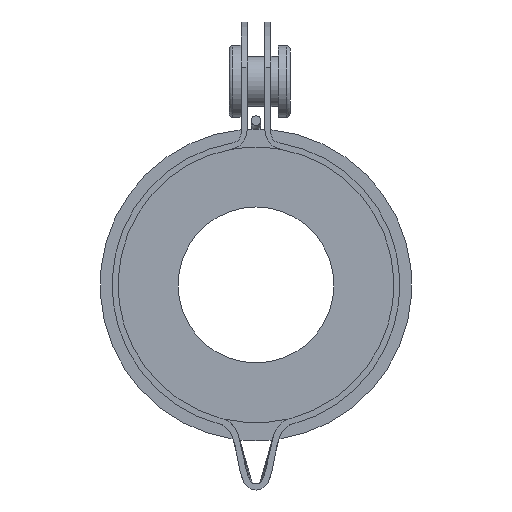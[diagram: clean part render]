
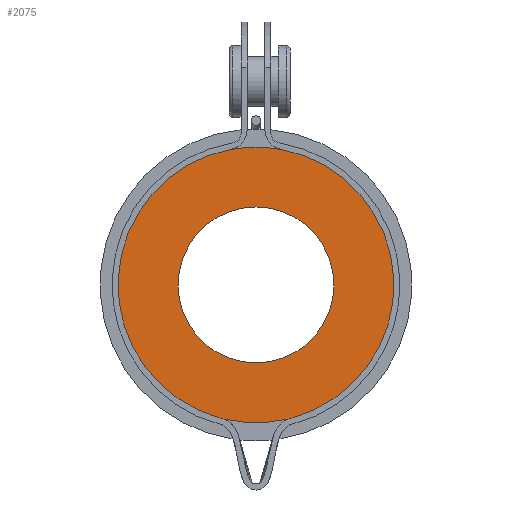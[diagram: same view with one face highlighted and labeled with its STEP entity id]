
A CAD part, front view. The second image highlights one B-rep face of the part: STEP entity #2075.
In plain terms, the highlighted planar face has unit normal (0, -1, 0).
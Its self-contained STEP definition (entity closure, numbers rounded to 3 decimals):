
#46=LINE($,#3395,#130);
#47=LINE($,#3402,#131);
#130=VECTOR($,#2716,0.13);
#131=VECTOR($,#2723,0.13);
#215=B_SPLINE_CURVE_WITH_KNOTS($,3,(#3383,#3384,#3385,#3386),
 .UNSPECIFIED.,.F.,.F.,(4,4),(0.,0.023),.UNSPECIFIED.);
#216=B_SPLINE_CURVE_WITH_KNOTS($,3,(#3390,#3391,#3392,#3393),
 .UNSPECIFIED.,.F.,.F.,(4,4),(0.125,0.148),
 .UNSPECIFIED.);
#314=FACE_BOUND($,#636,.T.);
#454=FACE_OUTER_BOUND($,#635,.T.);
#635=EDGE_LOOP($,(#1456,#1457,#1458,#1459,#1460,#1461,#1462,#1463));
#636=EDGE_LOOP($,(#1464));
#812=CIRCLE($,#2295,6.5);
#815=CIRCLE($,#2300,11.5);
#816=CIRCLE($,#2301,11.5);
#817=CIRCLE($,#2302,11.5);
#818=CIRCLE($,#2303,11.5);
#953=VERTEX_POINT($,#3363);
#958=VERTEX_POINT($,#3381);
#959=VERTEX_POINT($,#3382);
#960=VERTEX_POINT($,#3387);
#961=VERTEX_POINT($,#3389);
#962=VERTEX_POINT($,#3394);
#963=VERTEX_POINT($,#3396);
#964=VERTEX_POINT($,#3398);
#965=VERTEX_POINT($,#3400);
#1143=EDGE_CURVE($,#953,#953,#812,.T.);
#1148=EDGE_CURVE($,#958,#959,#215,.T.);
#1149=EDGE_CURVE($,#959,#960,#815,.T.);
#1150=EDGE_CURVE($,#960,#961,#216,.T.);
#1151=EDGE_CURVE($,#961,#962,#46,.T.);
#1152=EDGE_CURVE($,#962,#963,#816,.T.);
#1153=EDGE_CURVE($,#963,#964,#817,.T.);
#1154=EDGE_CURVE($,#964,#965,#818,.T.);
#1155=EDGE_CURVE($,#965,#958,#47,.T.);
#1456=ORIENTED_EDGE($,*,*,#1148,.T.);
#1457=ORIENTED_EDGE($,*,*,#1149,.T.);
#1458=ORIENTED_EDGE($,*,*,#1150,.T.);
#1459=ORIENTED_EDGE($,*,*,#1151,.T.);
#1460=ORIENTED_EDGE($,*,*,#1152,.T.);
#1461=ORIENTED_EDGE($,*,*,#1153,.T.);
#1462=ORIENTED_EDGE($,*,*,#1154,.T.);
#1463=ORIENTED_EDGE($,*,*,#1155,.T.);
#1464=ORIENTED_EDGE($,*,*,#1143,.T.);
#1843=PLANE($,#2299);
#2075=ADVANCED_FACE($,(#454,#314),#1843,.T.);
#2295=AXIS2_PLACEMENT_3D($,#3364,#2704,#2705);
#2299=AXIS2_PLACEMENT_3D($,#3380,#2712,#2713);
#2300=AXIS2_PLACEMENT_3D($,#3388,#2714,#2715);
#2301=AXIS2_PLACEMENT_3D($,#3397,#2717,#2718);
#2302=AXIS2_PLACEMENT_3D($,#3399,#2719,#2720);
#2303=AXIS2_PLACEMENT_3D($,#3401,#2721,#2722);
#2704=DIRECTION('center_axis',(0.,1.,0.));
#2705=DIRECTION('ref_axis',(1.,0.,0.));
#2712=DIRECTION('center_axis',(0.,-1.,0.));
#2713=DIRECTION('ref_axis',(0.,0.,-1.));
#2714=DIRECTION('center_axis',(0.,-1.,0.));
#2715=DIRECTION('ref_axis',(1.,0.,0.));
#2716=DIRECTION($,(0.992,0.,0.126));
#2717=DIRECTION('center_axis',(0.,-1.,0.));
#2718=DIRECTION('ref_axis',(1.,0.,0.));
#2719=DIRECTION('center_axis',(0.,-1.,0.));
#2720=DIRECTION('ref_axis',(1.,0.,0.));
#2721=DIRECTION('center_axis',(0.,-1.,0.));
#2722=DIRECTION('ref_axis',(1.,0.,0.));
#2723=DIRECTION($,(0.992,0.,-0.126));
#3363=CARTESIAN_POINT('',(-6.5,0.,0.));
#3364=CARTESIAN_POINT('Origin',(0.,0.,0.));
#3380=CARTESIAN_POINT('Origin',(0.,0.,0.));
#3381=CARTESIAN_POINT('',(-2.871,0.,-11.118));
#3382=CARTESIAN_POINT('',(-2.653,0.,-11.19));
#3383=CARTESIAN_POINT('Ctrl Pts',(-2.871,0.,-11.118));
#3384=CARTESIAN_POINT('Ctrl Pts',(-2.796,0.,-11.137));
#3385=CARTESIAN_POINT('Ctrl Pts',(-2.723,0.,
-11.161));
#3386=CARTESIAN_POINT('Ctrl Pts',(-2.653,0.,
-11.19));
#3387=CARTESIAN_POINT('',(2.653,0.,-11.19));
#3388=CARTESIAN_POINT('Origin',(0.,0.,0.));
#3389=CARTESIAN_POINT('',(2.871,0.,-11.118));
#3390=CARTESIAN_POINT('Ctrl Pts',(2.653,0.,-11.19));
#3391=CARTESIAN_POINT('Ctrl Pts',(2.723,0.,
-11.162));
#3392=CARTESIAN_POINT('Ctrl Pts',(2.796,0.,
-11.138));
#3393=CARTESIAN_POINT('Ctrl Pts',(2.871,0.,-11.118));
#3394=CARTESIAN_POINT('',(3.,0.,-11.102));
#3395=CARTESIAN_POINT($,(2.153,0.,-11.209));
#3396=CARTESIAN_POINT('',(2.063,0.,11.313));
#3397=CARTESIAN_POINT('Origin',(0.,0.,0.));
#3398=CARTESIAN_POINT('',(-2.063,0.,11.313));
#3399=CARTESIAN_POINT('Origin',(0.,0.,0.));
#3400=CARTESIAN_POINT('',(-3.,0.,-11.102));
#3401=CARTESIAN_POINT('Origin',(0.,0.,0.));
#3402=CARTESIAN_POINT($,(-2.153,0.,-11.209));
